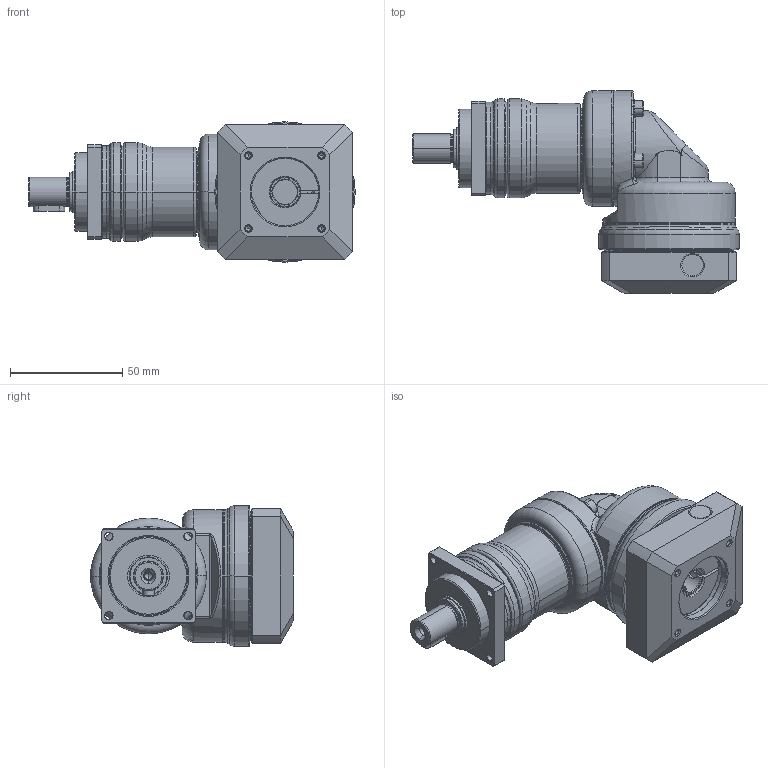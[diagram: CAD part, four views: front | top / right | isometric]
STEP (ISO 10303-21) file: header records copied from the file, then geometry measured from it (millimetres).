
FILE_DESCRIPTION((''),'2;1');
FILE_NAME('PA2R-042_2ST_11-P0411200101_ASM','2016-05-13T',('d01943'),(''),'PRO/ENGINEER BY PARAMETRIC TECHNOLOGY CORPORATION, 2008410','PRO/ENGINEER BY PARAMETRIC TECHNOLOGY CORPORATION, 2008410','');
FILE_SCHEMA(('CONFIG_CONTROL_DESIGN'));
Length unit declared in the file: millimetre
Products named in the file (12): P1327100001; P0251100001; P0350100601; P1349100001; P1017100001; P0713101001; P0503200005; P1350100101; P0411200101; P1702300001; 2111B104015; PA2R-042_2ST_11-P0411200101_ASM
Assembly tree (14 placements, depth 2):
  PA2R-042_2ST_11-P0411200101_ASM
    P1327100001
    P0251100001
    P0350100601
    P1349100001
    P1017100001
    P0713101001
    P0503200005
    P1350100101
    P0411200101
    P1702300001
    2111B104015  x4
Bounding box: 145.25 x 90.25 x 62.5 mm (x, y, z)
Volume: 196110.1 mm3; surface area: 77449 mm2
Topology: 14 solids, 14 shells, 748 faces, 1642 edges, 949 vertices
Faces by surface type: cylinder 220, cone 216, plane 171, torus 106, bspline 35
Entity records: 23669 total; most frequent: CARTESIAN_POINT 9159, DIRECTION 3215, ORIENTED_EDGE 2812, EDGE_CURVE 1406, AXIS2_PLACEMENT_3D 1358, VERTEX_POINT 829, EDGE_LOOP 733, CIRCLE 718
